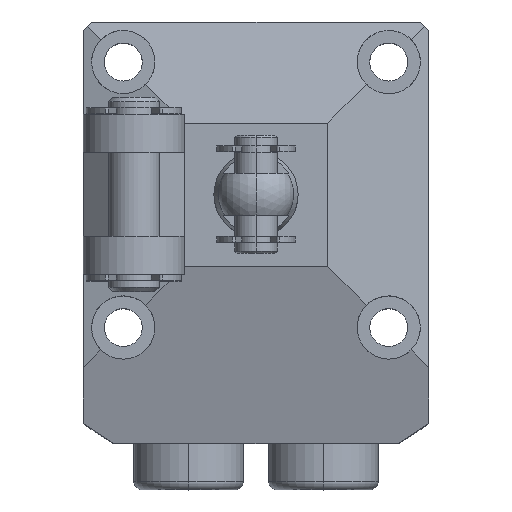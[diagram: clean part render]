
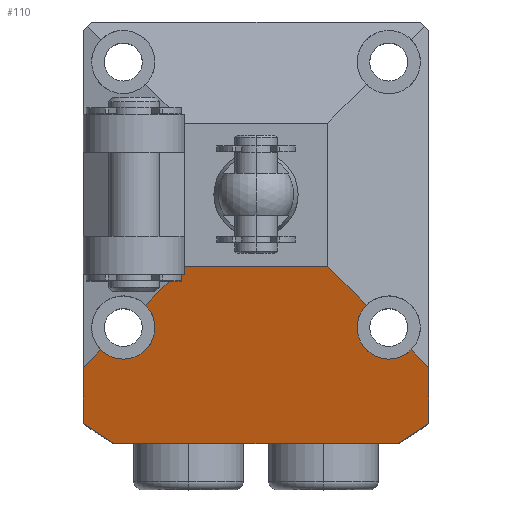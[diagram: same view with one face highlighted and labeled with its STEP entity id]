
A CAD part, top view. The second image highlights one B-rep face of the part: STEP entity #110.
In plain terms, the highlighted planar face has unit normal (0, -0.259, 0.966).
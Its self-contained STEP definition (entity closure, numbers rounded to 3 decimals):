
#56 = ORIENTED_EDGE ( 'NONE', *, *, #77, .T. ) ;
#71 = VERTEX_POINT ( 'NONE', #6542 ) ;
#77 = EDGE_CURVE ( 'NONE', #6897, #1034, #662, .T. ) ;
#90 = VECTOR ( 'NONE', #7670, 1000. ) ;
#110 = ADVANCED_FACE ( 'NONE', ( #312 ), #731, .F. ) ;
#180 = VECTOR ( 'NONE', #7044, 1000. ) ;
#257 = ORIENTED_EDGE ( 'NONE', *, *, #6804, .T. ) ;
#312 = FACE_OUTER_BOUND ( 'NONE', #2254, .T. ) ;
#335 = EDGE_CURVE ( 'NONE', #4083, #5232, #4224, .T. ) ;
#471 = AXIS2_PLACEMENT_3D ( 'NONE', #1457, #2432, #6987 ) ;
#478 = VECTOR ( 'NONE', #1714, 1000. ) ;
#536 = ORIENTED_EDGE ( 'NONE', *, *, #3156, .T. ) ;
#662 = LINE ( 'NONE', #4872, #478 ) ;
#731 = PLANE ( 'NONE',  #471 ) ;
#772 = DIRECTION ( 'NONE',  ( -0.695, -0.695, -0.186 ) ) ;
#807 = EDGE_CURVE ( 'NONE', #6693, #3113, #6486, .T. ) ;
#817 = CARTESIAN_POINT ( 'NONE',  ( -8.5, -8.5, 52.5 ) ) ;
#832 = ORIENTED_EDGE ( 'NONE', *, *, #5968, .T. ) ;
#1034 = VERTEX_POINT ( 'NONE', #5081 ) ;
#1072 = CARTESIAN_POINT ( 'NONE',  ( 5.498, 5.498, 56.251 ) ) ;
#1116 = LINE ( 'NONE', #5863, #7085 ) ;
#1192 = CARTESIAN_POINT ( 'NONE',  ( 8.5, -8.5, 52.5 ) ) ;
#1203 = CARTESIAN_POINT ( 'NONE',  ( -16.904, -29.5, 46.873 ) ) ;
#1237 = EDGE_CURVE ( 'NONE', #71, #2126, #2105, .T. ) ;
#1457 = CARTESIAN_POINT ( 'NONE',  ( 20.501, -8.5, 52.5 ) ) ;
#1486 = CARTESIAN_POINT ( 'NONE',  ( -18.402, -18.402, 49.847 ) ) ;
#1535 = LINE ( 'NONE', #1859, #7482 ) ;
#1669 = DIRECTION ( 'NONE',  ( 0., -0.966, -0.259 ) ) ;
#1685 = LINE ( 'NONE', #6999, #90 ) ;
#1714 = DIRECTION ( 'NONE',  ( -0.695, -0.695, -0.186 ) ) ;
#1808 = VERTEX_POINT ( 'NONE', #5507 ) ;
#1837 = CARTESIAN_POINT ( 'NONE',  ( 15.626, -21.177, 49.103 ) ) ;
#1859 = CARTESIAN_POINT ( 'NONE',  ( 14.293, -14.293, 50.948 ) ) ;
#1961 = CARTESIAN_POINT ( 'NONE',  ( 13.098, -13.098, 51.268 ) ) ;
#2097 = VERTEX_POINT ( 'NONE', #5066 ) ;
#2105 = LINE ( 'NONE', #4479, #5265 ) ;
#2108 = CARTESIAN_POINT ( 'NONE',  ( -13.098, -13.098, 51.268 ) ) ;
#2126 = VERTEX_POINT ( 'NONE', #1203 ) ;
#2254 = EDGE_LOOP ( 'NONE', ( #6699, #4517, #257, #3249, #536, #4434, #3347, #832, #3129, #3773, #4320, #56, #2340, #4731 ) ) ;
#2318 = CARTESIAN_POINT ( 'NONE',  ( 12., -15.75, 50.557 ) ) ;
#2340 = ORIENTED_EDGE ( 'NONE', *, *, #3667, .T. ) ;
#2400 = EDGE_CURVE ( 'NONE', #2126, #1808, #3218, .T. ) ;
#2432 = DIRECTION ( 'NONE',  ( 0., 0.259, -0.966 ) ) ;
#2539 = VERTEX_POINT ( 'NONE', #5008 ) ;
#2569 = CARTESIAN_POINT ( 'NONE',  ( -20.5, -27.125, 47.51 ) ) ;
#2621 = VERTEX_POINT ( 'NONE', #1192 ) ;
#2661 = CARTESIAN_POINT ( 'NONE',  ( -18.402, -18.402, 49.847 ) ) ;
#2738 = EDGE_CURVE ( 'NONE', #5232, #2621, #1535, .T. ) ;
#2880 = VERTEX_POINT ( 'NONE', #4901 ) ;
#3000 = CARTESIAN_POINT ( 'NONE',  ( 12., -19.675, 49.506 ) ) ;
#3043 = CARTESIAN_POINT ( 'NONE',  ( 20.5, -27.125, 47.51 ) ) ;
#3113 = VERTEX_POINT ( 'NONE', #2108 ) ;
#3129 = ORIENTED_EDGE ( 'NONE', *, *, #807, .T. ) ;
#3154 = CARTESIAN_POINT ( 'NONE',  ( 16.904, -29.5, 46.873 ) ) ;
#3156 = EDGE_CURVE ( 'NONE', #2880, #4083, #6515, .T. ) ;
#3218 =( BOUNDED_CURVE ( )  B_SPLINE_CURVE ( 3, ( #4267, #4495, #3914, #2569 ),
 .UNSPECIFIED., .F., .F. ) 
 B_SPLINE_CURVE_WITH_KNOTS ( ( 4, 4 ),
 ( 0.52, 0.647 ),
 .UNSPECIFIED. ) 
 CURVE ( )  GEOMETRIC_REPRESENTATION_ITEM ( )  RATIONAL_B_SPLINE_CURVE ( ( 1., 0.999, 0.999, 1. ) ) 
 REPRESENTATION_ITEM ( '' )  );
#3249 = ORIENTED_EDGE ( 'NONE', *, *, #7077, .T. ) ;
#3261 = DIRECTION ( 'NONE',  ( -0.695, 0.695, 0.186 ) ) ;
#3347 = ORIENTED_EDGE ( 'NONE', *, *, #2738, .T. ) ;
#3403 = LINE ( 'NONE', #5076, #6736 ) ;
#3500 = CARTESIAN_POINT ( 'NONE',  ( -11.825, -19.5, 49.553 ) ) ;
#3505 = VECTOR ( 'NONE', #772, 1000. ) ;
#3667 = EDGE_CURVE ( 'NONE', #1034, #1808, #1116, .T. ) ;
#3773 = ORIENTED_EDGE ( 'NONE', *, *, #4409, .T. ) ;
#3914 = CARTESIAN_POINT ( 'NONE',  ( -19.352, -27.992, 47.277 ) ) ;
#3991 = EDGE_CURVE ( 'NONE', #7591, #71, #5778, .T. ) ;
#4004 = CARTESIAN_POINT ( 'NONE',  ( 12.386, -13.811, 51.077 ) ) ;
#4083 = VERTEX_POINT ( 'NONE', #2318 ) ;
#4096 = CARTESIAN_POINT ( 'NONE',  ( 20.5, -8.5, 52.5 ) ) ;
#4183 = CARTESIAN_POINT ( 'NONE',  ( -16.758, -19.5, 49.553 ) ) ;
#4224 =( BOUNDED_CURVE ( )  B_SPLINE_CURVE ( 3, ( #6806, #5191, #4004, #6813 ),
 .UNSPECIFIED., .F., .T. ) 
 B_SPLINE_CURVE_WITH_KNOTS ( ( 4, 4 ),
 ( 4.712, 5.498 ),
 .UNSPECIFIED. ) 
 CURVE ( )  GEOMETRIC_REPRESENTATION_ITEM ( )  RATIONAL_B_SPLINE_CURVE ( ( 1., 0.949, 0.949, 1. ) ) 
 REPRESENTATION_ITEM ( '' )  );
#4267 = CARTESIAN_POINT ( 'NONE',  ( -16.904, -29.5, 46.873 ) ) ;
#4277 = EDGE_CURVE ( 'NONE', #2539, #6897, #6340, .T. ) ;
#4283 = DIRECTION ( 'NONE',  ( -1., 0., 0. ) ) ;
#4320 = ORIENTED_EDGE ( 'NONE', *, *, #4277, .T. ) ;
#4364 =( BOUNDED_CURVE ( )  B_SPLINE_CURVE ( 3, ( #5068, #4539, #3500, #7513 ),
 .UNSPECIFIED., .F., .F. ) 
 B_SPLINE_CURVE_WITH_KNOTS ( ( 4, 4 ),
 ( 0.785, 3.142 ),
 .UNSPECIFIED. ) 
 CURVE ( )  GEOMETRIC_REPRESENTATION_ITEM ( )  RATIONAL_B_SPLINE_CURVE ( ( 1., 0.588, 0.588, 1. ) ) 
 REPRESENTATION_ITEM ( '' )  );
#4409 = EDGE_CURVE ( 'NONE', #3113, #2539, #4364, .T. ) ;
#4434 = ORIENTED_EDGE ( 'NONE', *, *, #335, .T. ) ;
#4479 = CARTESIAN_POINT ( 'NONE',  ( 20.501, -29.5, 46.873 ) ) ;
#4495 = CARTESIAN_POINT ( 'NONE',  ( -18.152, -28.785, 47.065 ) ) ;
#4517 = ORIENTED_EDGE ( 'NONE', *, *, #3991, .F. ) ;
#4539 = CARTESIAN_POINT ( 'NONE',  ( -10.323, -15.874, 50.524 ) ) ;
#4731 = ORIENTED_EDGE ( 'NONE', *, *, #2400, .F. ) ;
#4872 = CARTESIAN_POINT ( 'NONE',  ( 5.498, 5.498, 56.251 ) ) ;
#4901 = CARTESIAN_POINT ( 'NONE',  ( 18.402, -18.402, 49.847 ) ) ;
#5008 = CARTESIAN_POINT ( 'NONE',  ( -15.75, -19.5, 49.553 ) ) ;
#5066 = CARTESIAN_POINT ( 'NONE',  ( 20.5, -20.5, 49.285 ) ) ;
#5068 = CARTESIAN_POINT ( 'NONE',  ( -13.098, -13.098, 51.268 ) ) ;
#5076 = CARTESIAN_POINT ( 'NONE',  ( 20.501, -8.5, 52.5 ) ) ;
#5081 = CARTESIAN_POINT ( 'NONE',  ( -20.5, -20.5, 49.285 ) ) ;
#5191 = CARTESIAN_POINT ( 'NONE',  ( 12., -14.742, 50.827 ) ) ;
#5232 = VERTEX_POINT ( 'NONE', #1961 ) ;
#5265 = VECTOR ( 'NONE', #6854, 1000. ) ;
#5409 = CARTESIAN_POINT ( 'NONE',  ( -17.689, -19.114, 49.656 ) ) ;
#5507 = CARTESIAN_POINT ( 'NONE',  ( -20.5, -27.125, 47.51 ) ) ;
#5769 = CARTESIAN_POINT ( 'NONE',  ( 19.352, -27.992, 47.277 ) ) ;
#5778 =( BOUNDED_CURVE ( )  B_SPLINE_CURVE ( 3, ( #3043, #5769, #7660, #3154 ),
 .UNSPECIFIED., .F., .F. ) 
 B_SPLINE_CURVE_WITH_KNOTS ( ( 4, 4 ),
 ( 5.636, 5.763 ),
 .UNSPECIFIED. ) 
 CURVE ( )  GEOMETRIC_REPRESENTATION_ITEM ( )  RATIONAL_B_SPLINE_CURVE ( ( 1., 0.999, 0.999, 1. ) ) 
 REPRESENTATION_ITEM ( '' )  );
#5863 = CARTESIAN_POINT ( 'NONE',  ( -20.5, -8.5, 52.5 ) ) ;
#5933 = CARTESIAN_POINT ( 'NONE',  ( 18.402, -18.402, 49.847 ) ) ;
#5968 = EDGE_CURVE ( 'NONE', #2621, #6693, #3403, .T. ) ;
#5989 = CARTESIAN_POINT ( 'NONE',  ( -15.75, -19.5, 49.553 ) ) ;
#6340 =( BOUNDED_CURVE ( )  B_SPLINE_CURVE ( 3, ( #5989, #4183, #5409, #2661 ),
 .UNSPECIFIED., .F., .F. ) 
 B_SPLINE_CURVE_WITH_KNOTS ( ( 4, 4 ),
 ( 3.142, 3.927 ),
 .UNSPECIFIED. ) 
 CURVE ( )  GEOMETRIC_REPRESENTATION_ITEM ( )  RATIONAL_B_SPLINE_CURVE ( ( 1., 0.949, 0.949, 1. ) ) 
 REPRESENTATION_ITEM ( '' )  );
#6486 = LINE ( 'NONE', #1072, #3505 ) ;
#6515 =( BOUNDED_CURVE ( )  B_SPLINE_CURVE ( 3, ( #5933, #1837, #3000, #7664 ),
 .UNSPECIFIED., .F., .F. ) 
 B_SPLINE_CURVE_WITH_KNOTS ( ( 4, 4 ),
 ( 2.356, 4.712 ),
 .UNSPECIFIED. ) 
 CURVE ( )  GEOMETRIC_REPRESENTATION_ITEM ( )  RATIONAL_B_SPLINE_CURVE ( ( 1., 0.588, 0.588, 1. ) ) 
 REPRESENTATION_ITEM ( '' )  );
#6534 = LINE ( 'NONE', #4096, #180 ) ;
#6542 = CARTESIAN_POINT ( 'NONE',  ( 16.904, -29.5, 46.873 ) ) ;
#6693 = VERTEX_POINT ( 'NONE', #817 ) ;
#6699 = ORIENTED_EDGE ( 'NONE', *, *, #1237, .F. ) ;
#6736 = VECTOR ( 'NONE', #4283, 1000. ) ;
#6804 = EDGE_CURVE ( 'NONE', #7591, #2097, #6534, .T. ) ;
#6806 = CARTESIAN_POINT ( 'NONE',  ( 12., -15.75, 50.557 ) ) ;
#6813 = CARTESIAN_POINT ( 'NONE',  ( 13.098, -13.098, 51.268 ) ) ;
#6854 = DIRECTION ( 'NONE',  ( -1., 0., 0. ) ) ;
#6897 = VERTEX_POINT ( 'NONE', #1486 ) ;
#6987 = DIRECTION ( 'NONE',  ( 0., 0.966, 0.259 ) ) ;
#6999 = CARTESIAN_POINT ( 'NONE',  ( 14.293, -14.293, 50.948 ) ) ;
#7044 = DIRECTION ( 'NONE',  ( 0., 0.966, 0.259 ) ) ;
#7077 = EDGE_CURVE ( 'NONE', #2097, #2880, #1685, .T. ) ;
#7085 = VECTOR ( 'NONE', #1669, 1000. ) ;
#7482 = VECTOR ( 'NONE', #3261, 1000. ) ;
#7513 = CARTESIAN_POINT ( 'NONE',  ( -15.75, -19.5, 49.553 ) ) ;
#7519 = CARTESIAN_POINT ( 'NONE',  ( 20.5, -27.125, 47.51 ) ) ;
#7591 = VERTEX_POINT ( 'NONE', #7519 ) ;
#7660 = CARTESIAN_POINT ( 'NONE',  ( 18.152, -28.785, 47.065 ) ) ;
#7664 = CARTESIAN_POINT ( 'NONE',  ( 12., -15.75, 50.557 ) ) ;
#7670 = DIRECTION ( 'NONE',  ( -0.695, 0.695, 0.186 ) ) ;
